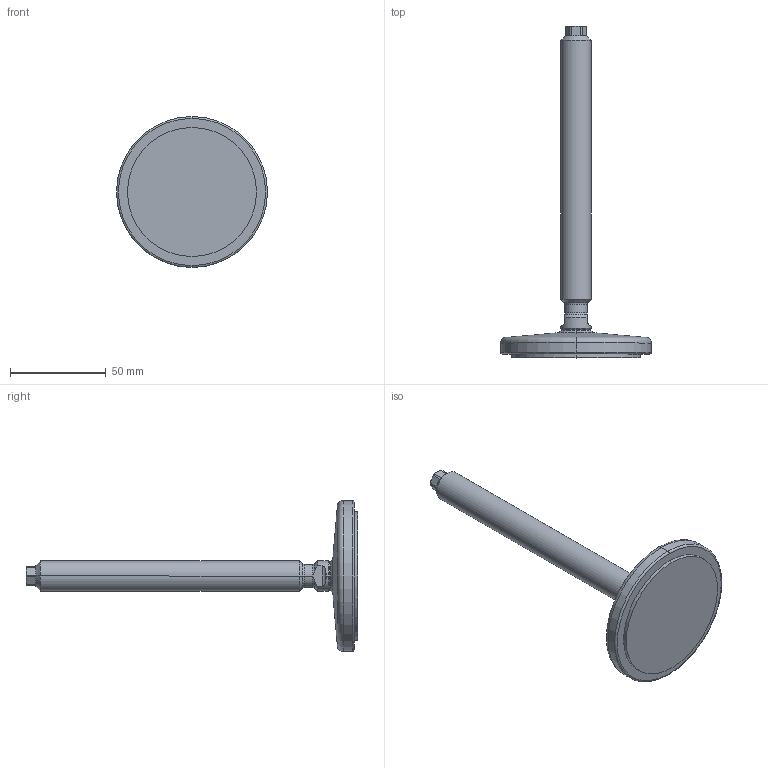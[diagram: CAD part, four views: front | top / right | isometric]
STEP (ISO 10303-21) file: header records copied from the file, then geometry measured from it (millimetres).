
FILE_DESCRIPTION (( 'STEP AP214' ), '1' );
FILE_NAME ('21-80-M16-150-D1-V.step', '2020-10-02T17:36:16', ( '' ), ( '' ), 'SwSTEP 2.0', 'SolidWorks 2019', '' );
FILE_SCHEMA (( 'AUTOMOTIVE_DESIGN' ));
Length unit declared in the file: millimetre
Products named in the file (3): WB21_Spindel_V^WB21_V_M16-150; WB21_Fußteller 21^WB21_V_D1-080-R10-B7 (M8 M10_M12_M16); 21-80-M16-150-D1-V
Assembly tree (2 placements, depth 2):
  21-80-M16-150-D1-V
    WB21_Fußteller 21^WB21_V_D1-080-R10-B7 (M8 M10_M12_M16)
    WB21_Spindel_V^WB21_V_M16-150
Bounding box: 79 x 173.64 x 79 mm (x, y, z)
Volume: 84672.7 mm3; surface area: 20536 mm2
Topology: 2 solids, 2 shells, 76 faces, 171 edges, 101 vertices
Faces by surface type: cylinder 25, plane 20, cone 17, torus 10, sphere 4
Entity records: 2391 total; most frequent: CARTESIAN_POINT 509, DIRECTION 390, ORIENTED_EDGE 342, EDGE_CURVE 171, AXIS2_PLACEMENT_3D 166, VERTEX_POINT 101, CIRCLE 85, EDGE_LOOP 78
